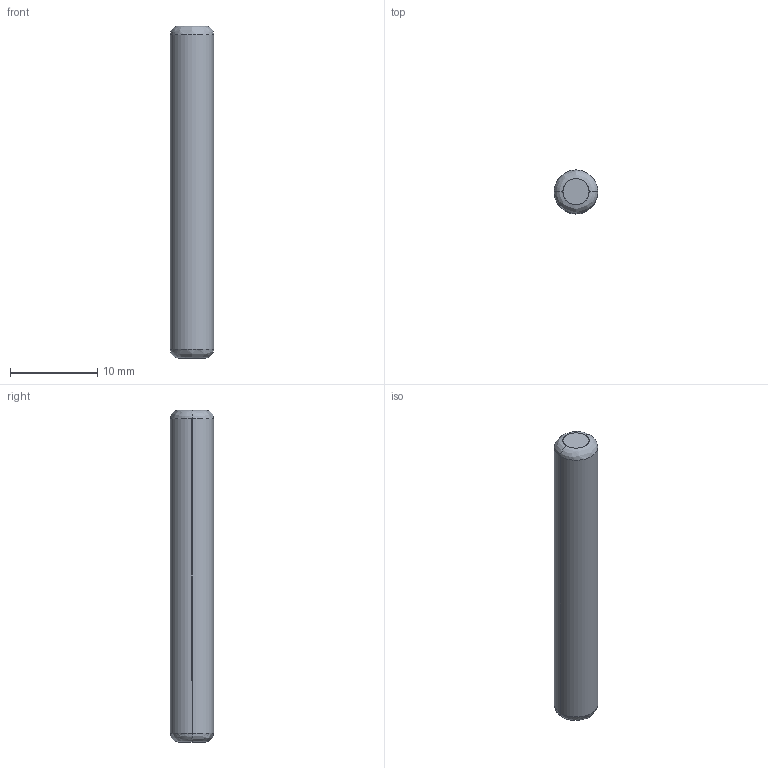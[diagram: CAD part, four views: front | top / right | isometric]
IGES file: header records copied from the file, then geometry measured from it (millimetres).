
Start section: SolidWorks IGES FILE using analytic representation for surfaces
Global section: file name: C:\Documents and Settings\lecoutey\Bureau\GP 31\31.100.10.IGS; native system: SolidWorks 2004 by SolidWorks Corporation; preprocessor: Version 5.3; author: lecoutey; date: 050329.144016; units: millimetre
Bounding box: 5 x 5 x 38.1 mm (x, y, z)
Surface area: 623.4 mm2 (no closed solid volume)
Topology: 0 solids, 0 shells, 8 faces, 88 edges, 88 vertices
Faces by surface type: bspline 6, revolution 2
